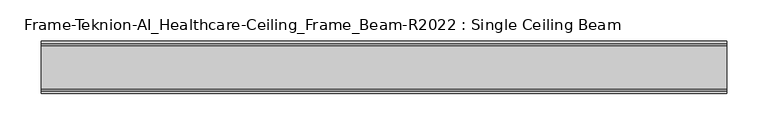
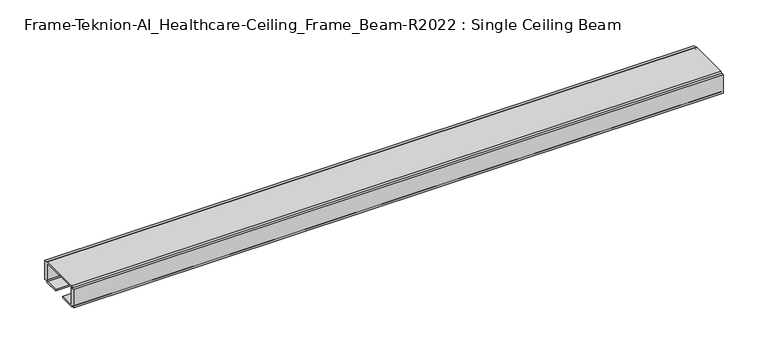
"""IFC4 building model written with IfcOpenShell, lengths in millimetres: furniture geometry, Frame-Teknion-AI_Healthcare-Ceiling_Frame_Beam-R2022 : Single Ceiling Beam."""

from ifc_helpers import new_model, si_unit, point, frame, frame_2d, origin, place, context, project, spatial, polyline, circle_curve, trimmed, segment, composite_curve, outline, extrude, source, transform, mapped, element, save


def frame_teknion_ai_healthcare_ceiling_frame_beam_r2022_single_d594a0e1(model_context):
    return source(origin(), model_context, "Body", "SweptSolid", [
        extrude(outline(composite_curve([segment(polyline([(-32.174996, 1573.5046), (-32.174996, 1598.9045998), (-28.999999, 1598.9045998), (-28.999999, 1597.787)]), True, "CONTINUOUS"), segment(trimmed(circle_curve(frame_2d((-26.5869991, 1597.787)), 2.413), [point((-28.999999, 1597.787))], [point((-26.5869991, 1600.2))], False, "CARTESIAN"), True, "CONTINUOUS"), segment(polyline([(-26.5869991, 1600.2), (26.5869991, 1600.2)]), True, "CONTINUOUS"), segment(trimmed(circle_curve(frame_2d((26.5869991, 1597.787)), 2.413), [point((26.5869991, 1600.2))], [point((28.999999, 1597.787))], False, "CARTESIAN"), True, "CONTINUOUS"), segment(polyline([(28.999999, 1597.787), (28.999999, 1598.9045998), (32.174996, 1598.9045998), (32.174996, 1573.5046), (28.999999, 1573.5046), (28.999999, 1574.6129989)]), True, "CONTINUOUS"), segment(trimmed(circle_curve(frame_2d((26.5869991, 1574.6129989)), 2.413), [point((28.999999, 1574.6129989))], [point((26.5869991, 1572.199999))], False, "CARTESIAN"), True, "CONTINUOUS"), segment(polyline([(26.5869991, 1572.199999), (7.9374947, 1572.199999), (7.9374947, 1574.4859991), (25.4440002, 1574.4859991)]), True, "CONTINUOUS"), segment(trimmed(circle_curve(frame_2d((25.4440002, 1576.0099999)), 1.5240008), [point((25.4440002, 1574.4859991))], [point((26.968001, 1576.0099999))], True, "CARTESIAN"), True, "CONTINUOUS"), segment(polyline([(26.968001, 1576.0099999), (26.968001, 1597.1520009)]), True, "CONTINUOUS"), segment(trimmed(circle_curve(frame_2d((25.9520019, 1597.1520009)), 1.015999), [point((26.968001, 1597.1520009))], [point((25.9520019, 1598.168))], True, "CARTESIAN"), True, "CONTINUOUS"), segment(polyline([(25.9520019, 1598.168), (-25.9520019, 1598.168)]), True, "CONTINUOUS"), segment(trimmed(circle_curve(frame_2d((-25.9520019, 1597.1520009)), 1.015999), [point((-25.9520019, 1598.168))], [point((-26.968001, 1597.1520009))], True, "CARTESIAN"), True, "CONTINUOUS"), segment(polyline([(-26.968001, 1597.1520009), (-26.968001, 1576.0099999)]), True, "CONTINUOUS"), segment(trimmed(circle_curve(frame_2d((-25.4440002, 1576.0099999)), 1.5240008), [point((-26.968001, 1576.0099999))], [point((-25.4440002, 1574.4859991))], True, "CARTESIAN"), True, "CONTINUOUS"), segment(polyline([(-25.4440002, 1574.4859991), (-7.9374947, 1574.4859991), (-7.9374947, 1572.199999), (-26.5869991, 1572.199999)]), True, "CONTINUOUS"), segment(trimmed(circle_curve(frame_2d((-26.5869991, 1574.6129989)), 2.413), [point((-26.5869991, 1572.199999))], [point((-28.999999, 1574.6129989))], False, "CARTESIAN"), True, "CONTINUOUS"), segment(polyline([(-28.999999, 1574.6129989), (-28.999999, 1573.5046), (-32.174996, 1573.5046)]), True, "CONTINUOUS")], self_intersect=False)), frame((-417.2204, 0.0, 0.0), z_axis=(1.0, 0.0, 0.0), x_axis=(0.0, 1.0, 0.0)), (0.0, 0.0, 1.0), 834.4408),
    ])


if __name__ == "__main__":
    model = new_model("IFC4")
    model_context = context("Model", 3, world=origin())
    ifc_project = project(units=[si_unit("LENGTHUNIT", "METRE", prefix="MILLI")], contexts=[model_context])
    site = spatial("IfcSite", under=ifc_project)
    building = spatial("IfcBuilding", under=site)
    placement = place(None, origin())
    frame_teknion_ai_healthcare_ceiling_frame_beam_r2022_single_shape = frame_teknion_ai_healthcare_ceiling_frame_beam_r2022_single_d594a0e1(model_context)
    element("IfcFurniture", 1, ObjectType="Frame-Teknion-AI_Healthcare-Ceiling_Frame_Beam-R2022 : Single Ceiling Beam", at=placement, inside=building, context=model_context, shape_type="MappedRepresentation", body=[
        mapped(frame_teknion_ai_healthcare_ceiling_frame_beam_r2022_single_shape, transform((0.0, 0.0, 0.0), x_axis=(1.0, 0.0, 0.0), y_axis=(0.0, 1.0, 0.0), z_axis=(0.0, 0.0, 1.0))),
    ])
    save(model, "model.ifc")
